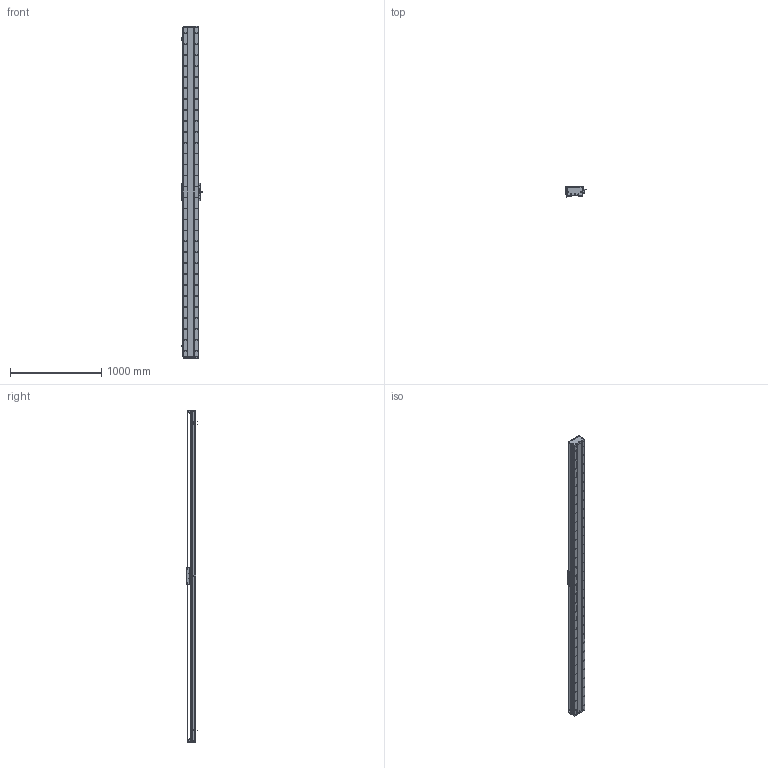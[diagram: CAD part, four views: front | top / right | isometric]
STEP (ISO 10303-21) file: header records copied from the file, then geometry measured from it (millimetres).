
FILE_DESCRIPTION (( 'STEP AP203' ), '1' );
FILE_NAME ('DA-C165-C2-T3360-C010-0.2 直线电机.STEP', '2023-05-11T07:57:46', ( '微软用户' ), ( '微软中国' ), 'SwSTEP 2.0', 'SolidWorks 2019', '' );
FILE_SCHEMA (( 'CONFIG_CONTROL_DESIGN' ));
Length unit declared in the file: millimetre
Products named in the file (18): 复件 DA165-GD-1860-002-00 钢带盖板^复件 CU165钢带组件_DA-C165-C2-T-C010-0.2-N 直线电机; 复件 DA165-GD-DG-H-00 端盖^复件 CU165钢带组件_DA-C165-C2-T-C010-0.2-N 直线电机; IU-CU165-L 菁釱絳寢; DA-C165-C2-T3360-C010-0.2 眻盄萇儂; 珨极趙賑雄怢啣wf-C2; 复件 CKM02-W075-C1C2-TP-3.0 一体电机-C2^DA-C165-C2-T-C010-0.2-N 直线电机; 葩璃 DA95-GT-T-00^IU-CU165-L 菁釱絳寢_T; 复件 DA165-GYP-00 光电感应片^DA-C165-C2-T-C010-0.2-N 直线电机; IU-CU165-L-00 菁釱_L3600; 复件 DA95-HXJ-00 缓冲橡胶^DA-C165-C2-T-C010-0.2-N 直线电机; 葩璃 PM-T45^DA-C165-C2-T-C010-0.2-N 眻盄萇儂; 复件 六角薄螺母 M3^DA-C165-C2-T-C010-0.2-N 直线电机_GB_FASTENER_NUT_STNAB M3-C; 葩璃 CKM01-W075-TRL^DA-C165-C2-T-C010-0.2-N 眻盄萇儂; 复件 DA165-GDLK-00 钢带拉块^复件 CU165钢带组件_DA-C165-C2-T-C010-0.2-N 直线电机; 复件 XD-U-02L 磁栅尺^DA-C165-C2-T-C010-0.2-N 直线电机_T; 复件 DMA-010-0.2 读数头^DA-C165-C2-T-C010-0.2-N 直线电机; 复件 CU165钢带组件^DA-C165-C2-T-C010-0.2-N 直线电机; 复件 DA165-GDYK-00 钢带压块^复件 CU165钢带组件_DA-C165-C2-T-C010-0.2-N 直线电机
Assembly tree (33 placements, depth 3):
  DA-C165-C2-T3360-C010-0.2 眻盄萇儂
    IU-CU165-L 菁釱絳寢
      IU-CU165-L-00 菁釱_L3600
      葩璃 DA95-GT-T-00^IU-CU165-L 菁釱絳寢_T  x4
    复件 XD-U-02L 磁栅尺^DA-C165-C2-T-C010-0.2-N 直线电机_T
    葩璃 PM-T45^DA-C165-C2-T-C010-0.2-N 眻盄萇儂  x3
    葩璃 CKM01-W075-TRL^DA-C165-C2-T-C010-0.2-N 眻盄萇儂
    复件 CU165钢带组件^DA-C165-C2-T-C010-0.2-N 直线电机
      复件 DA165-GD-DG-H-00 端盖^复件 CU165钢带组件_DA-C165-C2-T-C010-0.2-N 直线电机  x2
      复件 DA165-GDYK-00 钢带压块^复件 CU165钢带组件_DA-C165-C2-T-C010-0.2-N 直线电机  x2
      复件 DA165-GD-1860-002-00 钢带盖板^复件 CU165钢带组件_DA-C165-C2-T-C010-0.2-N 直线电机
      复件 DA165-GDLK-00 钢带拉块^复件 CU165钢带组件_DA-C165-C2-T-C010-0.2-N 直线电机  x2
    复件 DA95-HXJ-00 缓冲橡胶^DA-C165-C2-T-C010-0.2-N 直线电机  x4
    复件 DA165-GYP-00 光电感应片^DA-C165-C2-T-C010-0.2-N 直线电机
    复件 DMA-010-0.2 读数头^DA-C165-C2-T-C010-0.2-N 直线电机
    复件 CKM02-W075-C1C2-TP-3.0 一体电机-C2^DA-C165-C2-T-C010-0.2-N 直线电机
    复件 六角薄螺母 M3^DA-C165-C2-T-C010-0.2-N 直线电机_GB_FASTENER_NUT_STNAB M3-C  x6
    珨极趙賑雄怢啣wf-C2
Bounding box: 233 x 111.45 x 3640 mm (x, y, z)
Volume: 19447144.2 mm3; surface area: 5958538.2 mm2
Topology: 70 solids, 70 shells, 4387 faces, 13301 edges, 8563 vertices
Faces by surface type: cylinder 2773, plane 1134, cone 430, torus 46, sphere 4
Entity records: 156483 total; most frequent: CARTESIAN_POINT 44637, ORIENTED_EDGE 23774, DIRECTION 22299, EDGE_CURVE 11887, AXIS2_PLACEMENT_3D 8577, VERTEX_POINT 7799, EDGE_LOOP 5354, LINE 5145
